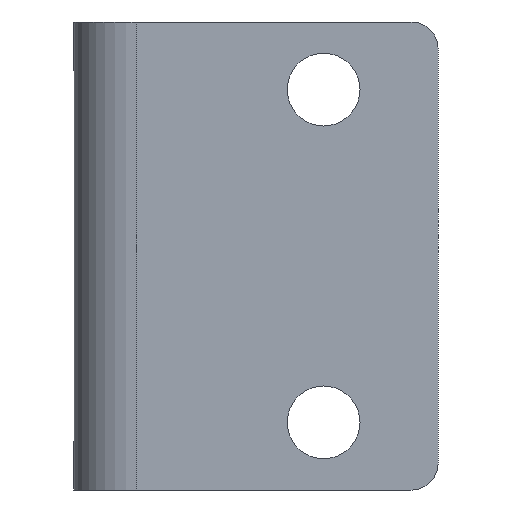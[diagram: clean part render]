
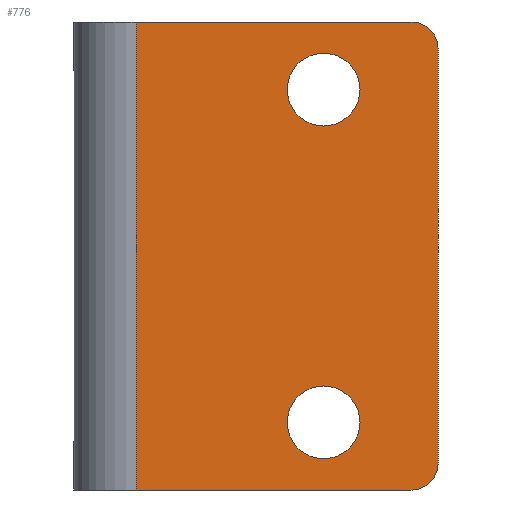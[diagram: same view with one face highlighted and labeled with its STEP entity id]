
A CAD part, front view. The second image highlights one B-rep face of the part: STEP entity #776.
In plain terms, the highlighted planar face has unit normal (0, -1, 0).
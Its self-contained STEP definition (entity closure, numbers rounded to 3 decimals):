
#179=CARTESIAN_POINT('',(6.,0.0,22.5));
#180=VERTEX_POINT('',#179);
#198=CARTESIAN_POINT('',(6.,0.0,-22.5));
#199=VERTEX_POINT('',#198);
#207=CARTESIAN_POINT('',(6.,0.0,-22.5));
#208=DIRECTION('',(0.0,0.0,1.0));
#209=VECTOR('',#208,45.0);
#210=LINE('',#207,#209);
#211=EDGE_CURVE('',#199,#180,#210,.T.);
#310=CARTESIAN_POINT('',(32.5,0.0,22.5));
#311=VERTEX_POINT('',#310);
#312=CARTESIAN_POINT('',(32.5,0.0,22.5));
#313=DIRECTION('',(-1.0,0.0,0.0));
#314=VECTOR('',#313,26.5);
#315=LINE('',#312,#314);
#316=EDGE_CURVE('',#311,#180,#315,.T.);
#360=CARTESIAN_POINT('',(35.0,0.0,-20.0));
#361=VERTEX_POINT('',#360);
#368=CARTESIAN_POINT('',(32.5,0.0,-22.5));
#369=VERTEX_POINT('',#368);
#370=CARTESIAN_POINT('',(32.5,0.0,-20.0));
#371=DIRECTION('',(0.0,1.,0.0));
#372=DIRECTION('',(0.707,0.0,-0.707));
#373=AXIS2_PLACEMENT_3D('',#370,#371,#372);
#374=CIRCLE('',#373,2.5);
#375=EDGE_CURVE('',#361,#369,#374,.T.);
#457=CARTESIAN_POINT('',(6.,0.0,-22.5));
#458=DIRECTION('',(1.0,0.0,0.0));
#459=VECTOR('',#458,26.5);
#460=LINE('',#457,#459);
#461=EDGE_CURVE('',#199,#369,#460,.T.);
#505=CARTESIAN_POINT('',(35.0,0.0,20.0));
#506=VERTEX_POINT('',#505);
#507=CARTESIAN_POINT('',(32.5,0.0,20.0));
#508=DIRECTION('',(0.0,1.,0.0));
#509=DIRECTION('',(0.707,0.0,0.707));
#510=AXIS2_PLACEMENT_3D('',#507,#508,#509);
#511=CIRCLE('',#510,2.5);
#512=EDGE_CURVE('',#311,#506,#511,.T.);
#551=CARTESIAN_POINT('',(20.5,0.,16.0));
#552=VERTEX_POINT('',#551);
#553=CARTESIAN_POINT('',(24.,0.0,16.0));
#554=DIRECTION('',(0.0,1.0,0.0));
#555=DIRECTION('',(1.0,0.0,0.0));
#556=AXIS2_PLACEMENT_3D('',#553,#554,#555);
#557=CIRCLE('',#556,3.5);
#558=EDGE_CURVE('',#552,#552,#557,.T.);
#592=CARTESIAN_POINT('',(20.5,0.,-16.));
#593=VERTEX_POINT('',#592);
#594=CARTESIAN_POINT('',(24.,0.0,-16.));
#595=DIRECTION('',(0.0,1.0,0.0));
#596=DIRECTION('',(1.0,0.0,0.0));
#597=AXIS2_PLACEMENT_3D('',#594,#595,#596);
#598=CIRCLE('',#597,3.5);
#599=EDGE_CURVE('',#593,#593,#598,.T.);
#748=CARTESIAN_POINT('',(35.0,0.0,-20.0));
#749=DIRECTION('',(0.0,0.0,1.0));
#750=VECTOR('',#749,40.0);
#751=LINE('',#748,#750);
#752=EDGE_CURVE('',#361,#506,#751,.T.);
#757=CARTESIAN_POINT('',(35.0,0.0,0.0));
#758=DIRECTION('',(0.0,-1.0,0.0));
#759=DIRECTION('',(0.0,0.0,-1.0));
#760=AXIS2_PLACEMENT_3D('',#757,#758,#759);
#761=PLANE('',#760);
#762=ORIENTED_EDGE('',*,*,#211,.F.);
#763=ORIENTED_EDGE('',*,*,#461,.T.);
#764=ORIENTED_EDGE('',*,*,#375,.F.);
#765=ORIENTED_EDGE('',*,*,#752,.T.);
#766=ORIENTED_EDGE('',*,*,#512,.F.);
#767=ORIENTED_EDGE('',*,*,#316,.T.);
#768=EDGE_LOOP('',(#762,#763,#764,#765,#766,#767));
#769=FACE_OUTER_BOUND('',#768,.T.);
#770=ORIENTED_EDGE('',*,*,#558,.T.);
#771=EDGE_LOOP('',(#770));
#772=FACE_BOUND('',#771,.T.);
#773=ORIENTED_EDGE('',*,*,#599,.T.);
#774=EDGE_LOOP('',(#773));
#775=FACE_BOUND('',#774,.T.);
#776=ADVANCED_FACE('',(#769,#772,#775),#761,.T.);
